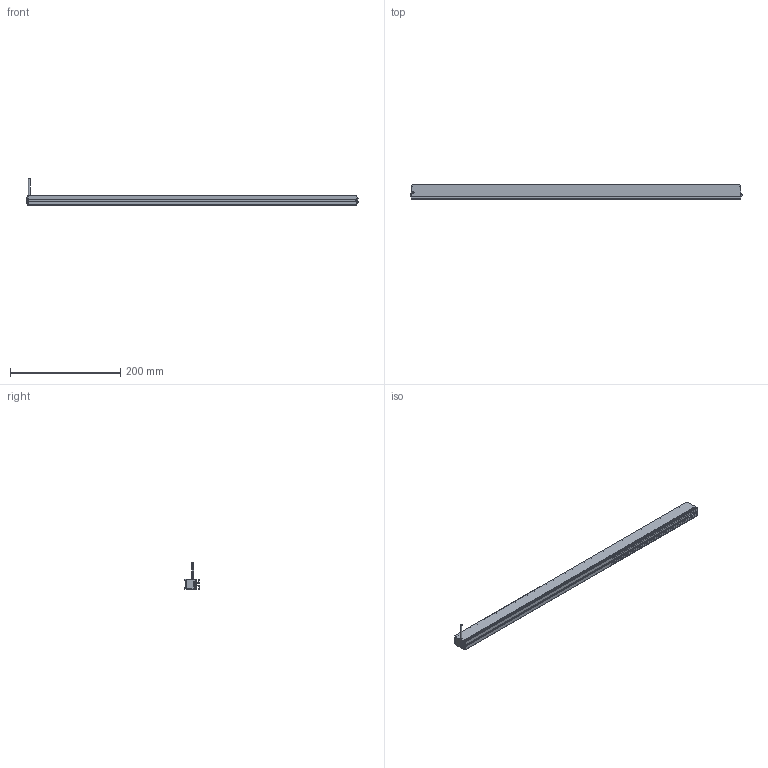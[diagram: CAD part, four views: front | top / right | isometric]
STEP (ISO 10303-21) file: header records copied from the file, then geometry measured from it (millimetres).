
FILE_DESCRIPTION((''),'2;1');
FILE_NAME('MV-LLDS-597-18_ASM','2020-12-30T',('Administrator'),(''),'PRO/ENGINEER BY PARAMETRIC TECHNOLOGY CORPORATION, 2010100','PRO/ENGINEER BY PARAMETRIC TECHNOLOGY CORPORATION, 2010100','');
FILE_SCHEMA(('CONFIG_CONTROL_DESIGN'));
Length unit declared in the file: millimetre
Products named in the file (3): BL_2_-_2_; M3-5_3; MV-LLDS-597-18_ASM
Assembly tree (5 placements, depth 2):
  MV-LLDS-597-18_ASM
    BL_2_-_2_
    M3-5_3  x4
Bounding box: 601.68 x 27 x 48 mm (x, y, z)
Volume: 237422.4 mm3; surface area: 105614.3 mm2
Topology: 5 solids, 13 shells, 327 faces, 872 edges, 560 vertices
Faces by surface type: plane 213, cylinder 66, cone 16, bspline 16, torus 8, sphere 8
Entity records: 7485 total; most frequent: CARTESIAN_POINT 1567, ORIENTED_EDGE 1214, DIRECTION 1184, EDGE_CURVE 617, VECTOR 472, LINE 472, VERTEX_POINT 401, AXIS2_PLACEMENT_3D 356
